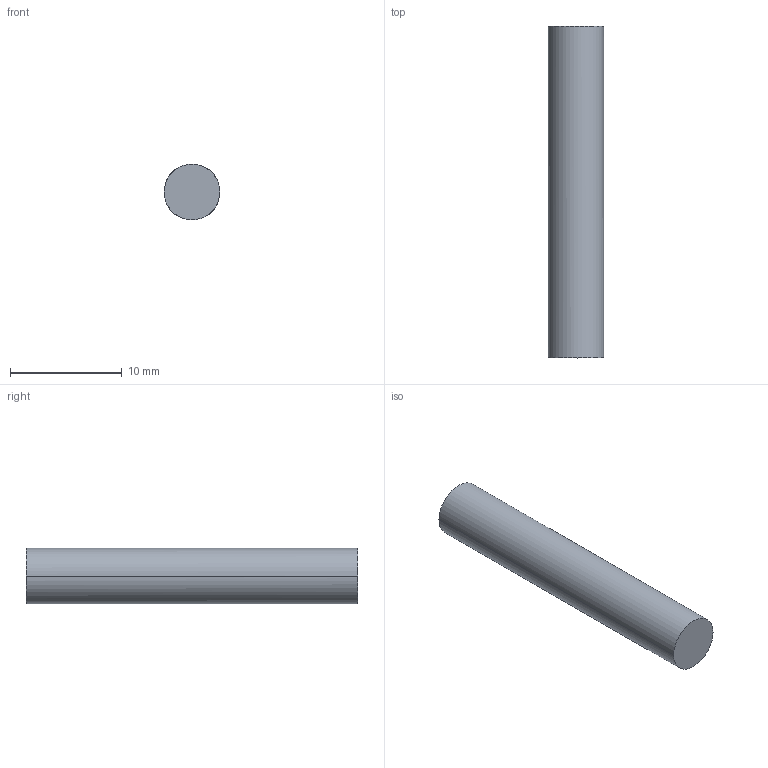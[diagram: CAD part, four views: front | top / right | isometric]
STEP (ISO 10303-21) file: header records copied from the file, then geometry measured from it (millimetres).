
FILE_DESCRIPTION(/* description */ (''),/* implementation_level */ '2;1');
FILE_NAME(/* name */ 'EJE5MM~1',/* time_stamp */ '2019-04-01T21:27:00-03:00',/* author */ (''),/* organization */ (''),/* preprocessor_version */ 'ST-DEVELOPER v16.5',/* originating_system */ '',/* authorisation */ '');
FILE_SCHEMA (('AUTOMOTIVE_DESIGN'));
Length unit declared in the file: millimetre
Products named in the file (1): Document
Bounding box: 5 x 29.76 x 4.99 mm (x, y, z)
Volume: 586.2 mm3; surface area: 507.6 mm2
Topology: 1 solids, 1 shells, 4 faces, 6 edges, 4 vertices
Faces by surface type: bspline 2, plane 2
Entity records: 117 total; most frequent: CARTESIAN_POINT 52, ORIENTED_EDGE 12, EDGE_CURVE 6, DIRECTION 6, ADVANCED_FACE 4, FACE_OUTER_BOUND 4, EDGE_LOOP 4, VERTEX_POINT 4
